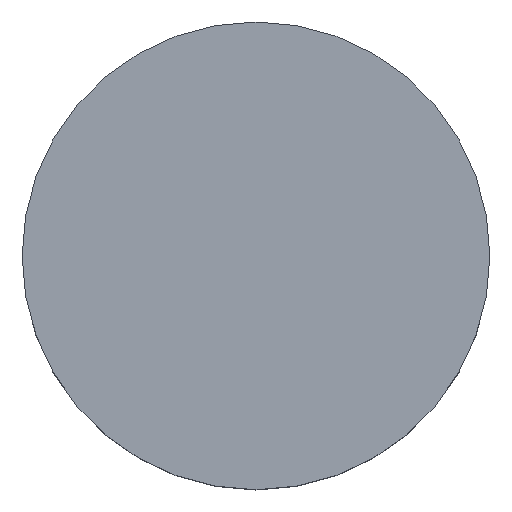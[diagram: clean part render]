
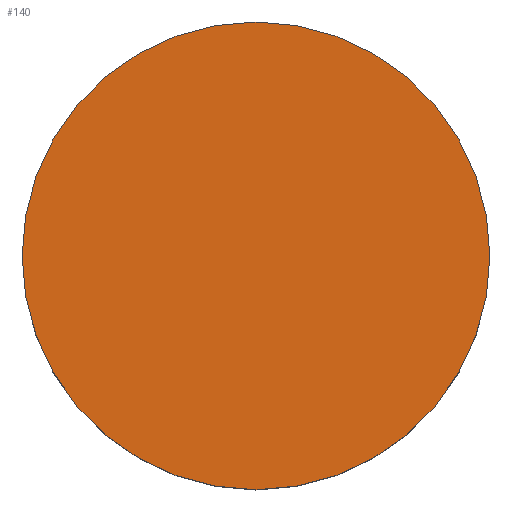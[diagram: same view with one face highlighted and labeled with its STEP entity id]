
A CAD part, top view. The second image highlights one B-rep face of the part: STEP entity #140.
In plain terms, the highlighted planar face has unit normal (0, 0, 1).
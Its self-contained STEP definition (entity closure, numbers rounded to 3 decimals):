
#24 = VERTEX_POINT('',#25);
#25 = CARTESIAN_POINT('',(16.,0.,34.));
#32 = CYLINDRICAL_SURFACE('',#33,16.);
#33 = AXIS2_PLACEMENT_3D('',#34,#35,#36);
#34 = CARTESIAN_POINT('',(0.,0.,24.));
#35 = DIRECTION('',(-0.,-0.,-1.));
#36 = DIRECTION('',(1.,0.,0.));
#51 = EDGE_CURVE('',#24,#24,#52,.T.);
#52 = SURFACE_CURVE('',#53,(#58,#65),.PCURVE_S1.);
#53 = CIRCLE('',#54,16.);
#54 = AXIS2_PLACEMENT_3D('',#55,#56,#57);
#55 = CARTESIAN_POINT('',(0.,0.,34.));
#56 = DIRECTION('',(0.,0.,1.));
#57 = DIRECTION('',(1.,0.,0.));
#58 = PCURVE('',#32,#59);
#59 = DEFINITIONAL_REPRESENTATION('',(#60),#64);
#60 = LINE('',#61,#62);
#61 = CARTESIAN_POINT('',(-0.,-10.));
#62 = VECTOR('',#63,1.);
#63 = DIRECTION('',(-1.,0.));
#64 = ( GEOMETRIC_REPRESENTATION_CONTEXT(2) 
PARAMETRIC_REPRESENTATION_CONTEXT() REPRESENTATION_CONTEXT('2D SPACE',''
  ) );
#65 = PCURVE('',#66,#71);
#66 = PLANE('',#67);
#67 = AXIS2_PLACEMENT_3D('',#68,#69,#70);
#68 = CARTESIAN_POINT('',(0.,0.,34.));
#69 = DIRECTION('',(0.,0.,1.));
#70 = DIRECTION('',(1.,0.,-0.));
#71 = DEFINITIONAL_REPRESENTATION('',(#72),#76);
#72 = CIRCLE('',#73,16.);
#73 = AXIS2_PLACEMENT_2D('',#74,#75);
#74 = CARTESIAN_POINT('',(0.,0.));
#75 = DIRECTION('',(1.,0.));
#76 = ( GEOMETRIC_REPRESENTATION_CONTEXT(2) 
PARAMETRIC_REPRESENTATION_CONTEXT() REPRESENTATION_CONTEXT('2D SPACE',''
  ) );
#140 = ADVANCED_FACE('',(#141),#66,.T.);
#141 = FACE_BOUND('',#142,.T.);
#142 = EDGE_LOOP('',(#143));
#143 = ORIENTED_EDGE('',*,*,#51,.T.);
